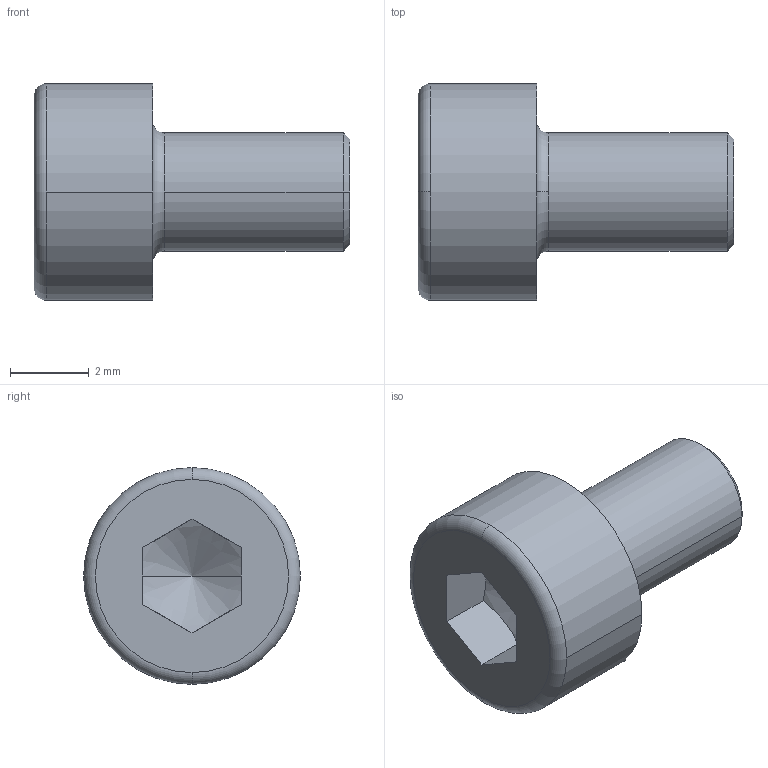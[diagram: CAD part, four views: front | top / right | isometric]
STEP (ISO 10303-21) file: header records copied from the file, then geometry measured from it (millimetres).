
FILE_DESCRIPTION(('STEP AP242'),'1');
FILE_NAME('screw_gb_t_70_1_m3x5.stp','2025-02-15T10:37:13',('TraceParts'),('TraceParts S.A.'),'Spatial InterOp 3D',' ',' ');
FILE_SCHEMA(('AP242_MANAGED_MODEL_BASED_3D_ENGINEERING_MIM_LF {1 0 10303 442 1 1 4}'));
Length unit declared in the file: millimetre
Products named in the file (1): screw_gb_t_70_1_m3x5
Bounding box: 8 x 5.5 x 5.5 mm (x, y, z)
Volume: 97.6 mm3; surface area: 154.8 mm2
Topology: 1 solids, 1 shells, 21 faces, 54 edges, 35 vertices
Faces by surface type: plane 9, cylinder 4, torus 4, cone 4
Entity records: 645 total; most frequent: CARTESIAN_POINT 125, DIRECTION 112, ORIENTED_EDGE 104, EDGE_CURVE 52, AXIS2_PLACEMENT_3D 46, VERTEX_POINT 35, CIRCLE 24, EDGE_LOOP 23
